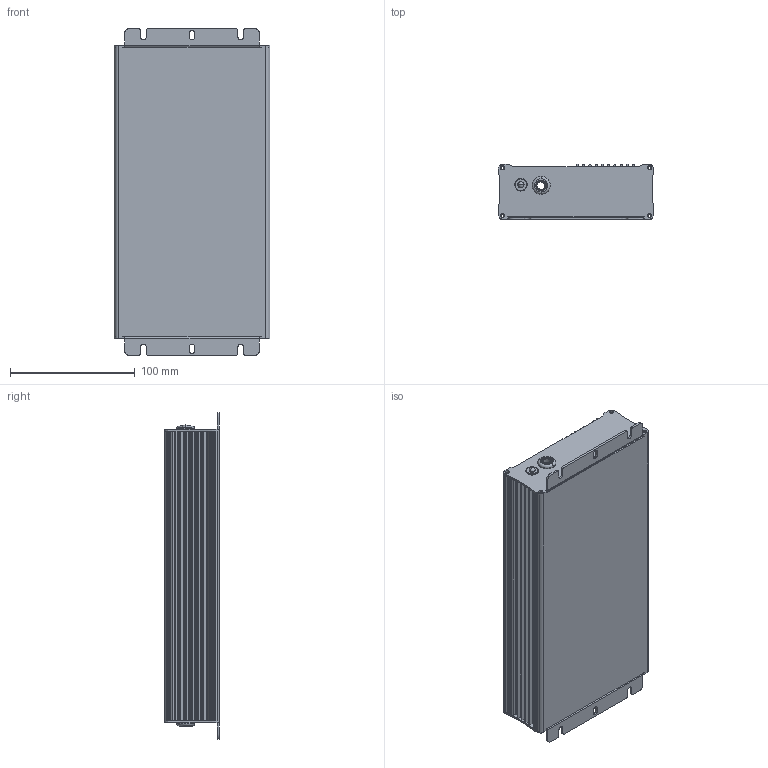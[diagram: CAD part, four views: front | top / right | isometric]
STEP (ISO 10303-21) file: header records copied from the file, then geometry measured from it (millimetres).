
FILE_DESCRIPTION(('Creo Elements/Direct Modeling STEP Export'),'2;1');
FILE_NAME('HEP-480B-O.stp','2017-05-09T10:30:11',(''),(''),'PTC Creo Elements/Direct Modeling STEP processor for AP214 (Solid Model)','PTC Creo Elements/Direct Modeling 19.0 09-May-2014 (C) Parametric Technology GmbH','');
FILE_SCHEMA(('AUTOMOTIVE_DESIGN { 1 0 10303 214 1 1 1 1 }'));
Length unit declared in the file: millimetre
Products named in the file (9): HLG-480H-ATYPE-193980.PRT.1; HLG-480H-ATYPE-193980.PRT; HLG-480H-ATYPE-194310.ASM; TLED-05_w_p____; LED2PIN__; RD1311028___X1; RD1311028ýíÎX1.STEP; TLED-05¿wÙpÙæÏÿ.STEP; HEP-480A-0
Assembly tree (8 placements, depth 5):
  HEP-480A-0
    TLED-05¿wÙpÙæÏÿ.STEP
      RD1311028ýíÎX1.STEP
        RD1311028___X1
          LED2PIN__
      TLED-05_w_p____
    HLG-480H-ATYPE-194310.ASM
      HLG-480H-ATYPE-193980.PRT
      HLG-480H-ATYPE-193980.PRT.1
Bounding box: 125.02 x 43.8 x 262 mm (x, y, z)
Volume: 226594.4 mm3; surface area: 213100.4 mm2
Topology: 4 solids, 5 shells, 669 faces, 1838 edges, 1203 vertices
Faces by surface type: plane 329, cylinder 268, cone 52, torus 18, sphere 2
Entity records: 26858 total; most frequent: CARTESIAN_POINT 4133, DIRECTION 3804, ORIENTED_EDGE 3672, EDGE_CURVE 1836, AXIS2_PLACEMENT_3D 1412, VERTEX_POINT 1203, VECTOR 980, LINE 980
